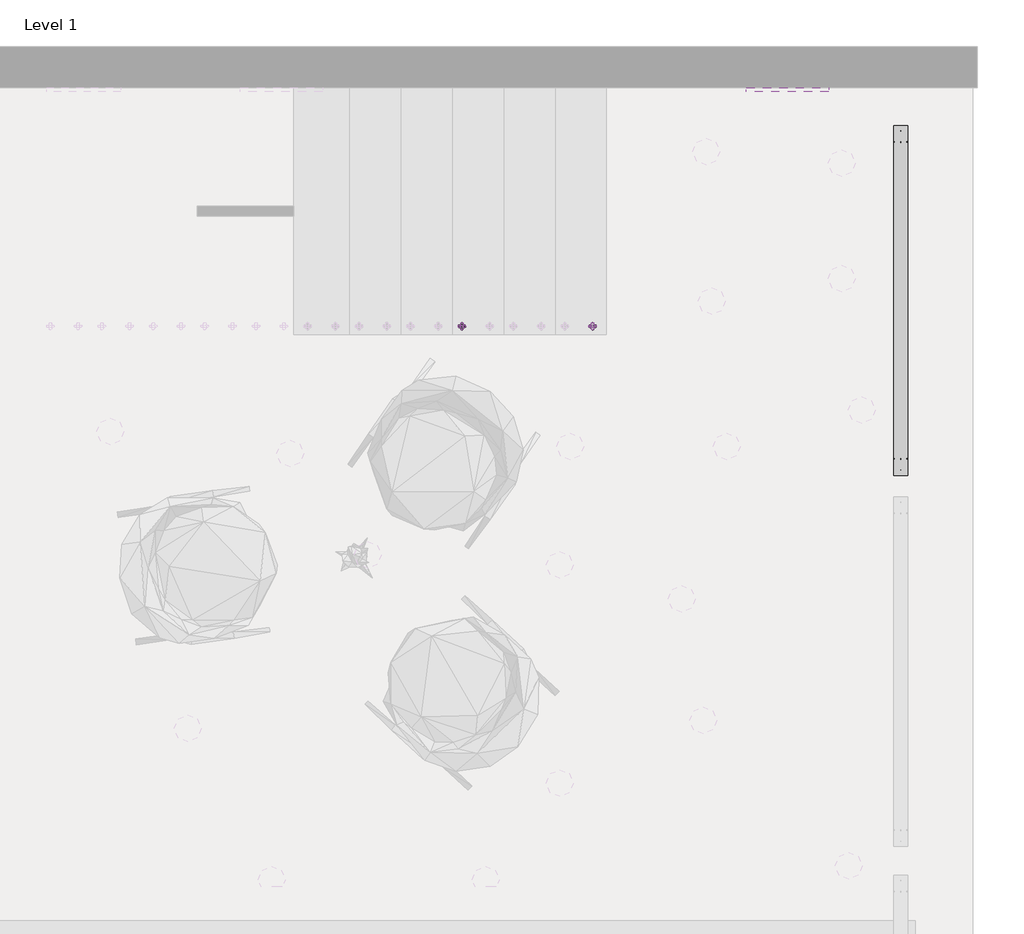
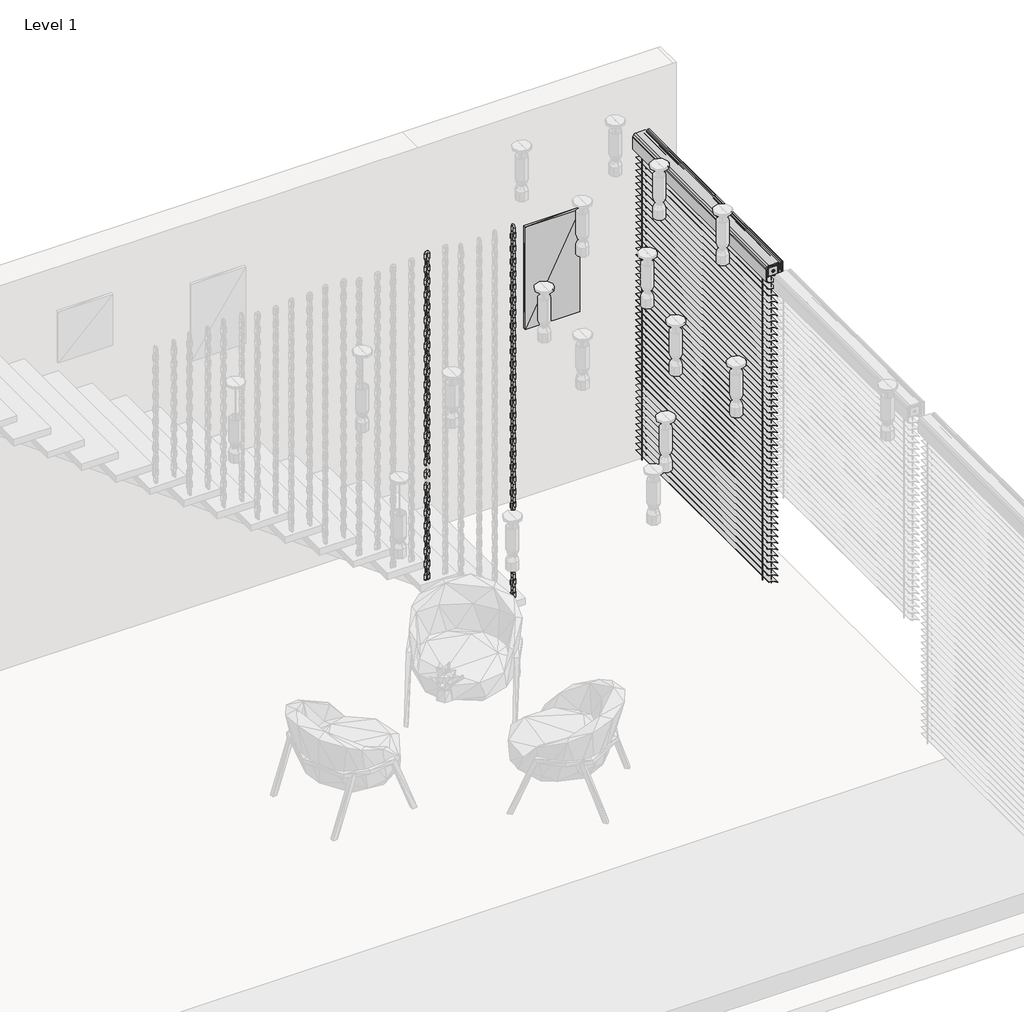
# One storey, part 12 of 12: 108 proxies, 1 geographic element.
"""IFC4 building model written with IfcOpenShell, lengths in millimetres."""

from ifc_helpers import new_model, si_unit, origin, place, context, project, spatial, transform, mapped, element, save
from components import generic_models_4dfa0e88, generic_models_0d125391, family1_family1_50133a43, family1_family1_d3af85bb, enscape_assetdefinition_wall_frame_03_enscape_afdf1664

model = new_model("IFC4")

# Units and contexts
model_context = context("Model", 3, world=origin())
ifc_project = project(units=[si_unit("LENGTHUNIT", "METRE", prefix="MILLI")], contexts=[model_context])

# Site, building, storey
site = spatial("IfcSite", under=ifc_project)
building = spatial("IfcBuilding", under=site)
storey = spatial("IfcBuildingStorey", under=building, Name="Level 1", Elevation=0.0)

# Proxies
placement = place(None, origin())
generic_models_shape = generic_models_4dfa0e88(model_context)
generic_models_2_shape = generic_models_0d125391(model_context)
element("IfcBuildingElementProxy", 1, Name="Windows-Blinds Schenker Stores Stores a lamelles Economy EC 70 : Windows-Blinds Schenker Stores Stores a lamelles Economy EC 70", ObjectType="Windows-Blinds Schenker Stores Stores a lamelles Economy EC 70 : Windows-Blinds Schenker Stores Stores a lamelles Economy EC 70", at=placement, inside=storey, context=model_context, shape_type="MappedRepresentation", body=[
    mapped(generic_models_shape, transform((14205.6769044, 1264.560891, 200.0), x_axis=(0.0, 1.0, 0.0), y_axis=(-1.0, 0.0, 0.0), z_axis=(0.0, 0.0, 1.0))),
    mapped(generic_models_2_shape, transform((14205.6769044, 1264.560891, 200.0), x_axis=(0.0, 1.0, 0.0), y_axis=(-1.0, 0.0, 0.0), z_axis=(0.0, 0.0, 1.0))),
])
family1_family1_shape = family1_family1_50133a43(model_context)
element("IfcBuildingElementProxy", 2, Name="Family1 : Family1", ObjectType="Family1 : Family1", at=placement, inside=storey, context=model_context, shape_type="MappedRepresentation", body=[
    mapped(family1_family1_shape, transform((15000.1232124, 1139.760891, -134.8140205), x_axis=(-0.03315618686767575, 0.0, 0.9994501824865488), y_axis=(-0.9994501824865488, 0.0, -0.03315618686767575), z_axis=(0.0, -1.0, 0.0))),
])
element("IfcBuildingElementProxy", 3, Name="Family1 : Family1", ObjectType="Family1 : Family1", at=placement, inside=storey, context=model_context, shape_type="MappedRepresentation", body=[
    mapped(family1_family1_shape, transform((15000.1232124, 1139.760891, -34.8140205), x_axis=(-0.03315618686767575, 0.0, 0.9994501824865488), y_axis=(-0.9994501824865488, 0.0, -0.03315618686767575), z_axis=(0.0, -1.0, 0.0))),
])
element("IfcBuildingElementProxy", 4, Name="Family1 : Family1", ObjectType="Family1 : Family1", at=placement, inside=storey, context=model_context, shape_type="MappedRepresentation", body=[
    mapped(family1_family1_shape, transform((15000.1232124, 1139.760891, 65.1859795), x_axis=(-0.03315618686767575, 0.0, 0.9994501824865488), y_axis=(-0.9994501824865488, 0.0, -0.03315618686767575), z_axis=(0.0, -1.0, 0.0))),
])
element("IfcBuildingElementProxy", 5, Name="Family1 : Family1", ObjectType="Family1 : Family1", at=placement, inside=storey, context=model_context, shape_type="MappedRepresentation", body=[
    mapped(family1_family1_shape, transform((15000.1232124, 1139.760891, 165.1859795), x_axis=(-0.03315618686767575, 0.0, 0.9994501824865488), y_axis=(-0.9994501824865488, 0.0, -0.03315618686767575), z_axis=(0.0, -1.0, 0.0))),
])
element("IfcBuildingElementProxy", 6, Name="Family1 : Family1", ObjectType="Family1 : Family1", at=placement, inside=storey, context=model_context, shape_type="MappedRepresentation", body=[
    mapped(family1_family1_shape, transform((15000.1232124, 1139.760891, 265.1859795), x_axis=(-0.03315618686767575, 0.0, 0.9994501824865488), y_axis=(-0.9994501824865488, 0.0, -0.03315618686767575), z_axis=(0.0, -1.0, 0.0))),
])
element("IfcBuildingElementProxy", 7, Name="Family1 : Family1", ObjectType="Family1 : Family1", at=placement, inside=storey, context=model_context, shape_type="MappedRepresentation", body=[
    mapped(family1_family1_shape, transform((15000.1232124, 1139.760891, 365.1859795), x_axis=(-0.03315618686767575, 0.0, 0.9994501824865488), y_axis=(-0.9994501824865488, 0.0, -0.03315618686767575), z_axis=(0.0, -1.0, 0.0))),
])
element("IfcBuildingElementProxy", 8, Name="Family1 : Family1", ObjectType="Family1 : Family1", at=placement, inside=storey, context=model_context, shape_type="MappedRepresentation", body=[
    mapped(family1_family1_shape, transform((15000.1232124, 1139.760891, 465.1859795), x_axis=(-0.03315618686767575, 0.0, 0.9994501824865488), y_axis=(-0.9994501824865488, 0.0, -0.03315618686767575), z_axis=(0.0, -1.0, 0.0))),
])
element("IfcBuildingElementProxy", 9, Name="Family1 : Family1", ObjectType="Family1 : Family1", at=placement, inside=storey, context=model_context, shape_type="MappedRepresentation", body=[
    mapped(family1_family1_shape, transform((15000.1232124, 1139.760891, 565.1859795), x_axis=(-0.03315618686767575, 0.0, 0.9994501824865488), y_axis=(-0.9994501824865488, 0.0, -0.03315618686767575), z_axis=(0.0, -1.0, 0.0))),
])
element("IfcBuildingElementProxy", 10, Name="Family1 : Family1", ObjectType="Family1 : Family1", at=placement, inside=storey, context=model_context, shape_type="MappedRepresentation", body=[
    mapped(family1_family1_shape, transform((15000.1232124, 1139.760891, 665.1859795), x_axis=(-0.03315618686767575, 0.0, 0.9994501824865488), y_axis=(-0.9994501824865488, 0.0, -0.03315618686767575), z_axis=(0.0, -1.0, 0.0))),
])
element("IfcBuildingElementProxy", 11, Name="Family1 : Family1", ObjectType="Family1 : Family1", at=placement, inside=storey, context=model_context, shape_type="MappedRepresentation", body=[
    mapped(family1_family1_shape, transform((15000.1232124, 1139.760891, 765.1859795), x_axis=(-0.03315618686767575, 0.0, 0.9994501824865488), y_axis=(-0.9994501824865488, 0.0, -0.03315618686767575), z_axis=(0.0, -1.0, 0.0))),
])
element("IfcBuildingElementProxy", 12, Name="Family1 : Family1", ObjectType="Family1 : Family1", at=placement, inside=storey, context=model_context, shape_type="MappedRepresentation", body=[
    mapped(family1_family1_shape, transform((15000.1232124, 1139.760891, -234.8140205), x_axis=(-0.03315618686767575, 0.0, 0.9994501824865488), y_axis=(-0.9994501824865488, 0.0, -0.03315618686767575), z_axis=(0.0, -1.0, 0.0))),
])
element("IfcBuildingElementProxy", 13, Name="Family1 : Family1", ObjectType="Family1 : Family1", at=placement, inside=storey, context=model_context, shape_type="MappedRepresentation", body=[
    mapped(family1_family1_shape, transform((15000.1232124, 1139.760891, -334.8140205), x_axis=(-0.03315618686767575, 0.0, 0.9994501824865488), y_axis=(-0.9994501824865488, 0.0, -0.03315618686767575), z_axis=(0.0, -1.0, 0.0))),
])
element("IfcBuildingElementProxy", 14, Name="Family1 : Family1", ObjectType="Family1 : Family1", at=placement, inside=storey, context=model_context, shape_type="MappedRepresentation", body=[
    mapped(family1_family1_shape, transform((15000.1232124, 1139.760891, -434.8140205), x_axis=(-0.03315618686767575, 0.0, 0.9994501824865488), y_axis=(-0.9994501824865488, 0.0, -0.03315618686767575), z_axis=(0.0, -1.0, 0.0))),
])
element("IfcBuildingElementProxy", 15, Name="Family1 : Family1", ObjectType="Family1 : Family1", at=placement, inside=storey, context=model_context, shape_type="MappedRepresentation", body=[
    mapped(family1_family1_shape, transform((15000.1232124, 1139.760891, -534.8140205), x_axis=(-0.03315618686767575, 0.0, 0.9994501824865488), y_axis=(-0.9994501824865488, 0.0, -0.03315618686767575), z_axis=(0.0, -1.0, 0.0))),
])
element("IfcBuildingElementProxy", 16, Name="Family1 : Family1", ObjectType="Family1 : Family1", at=placement, inside=storey, context=model_context, shape_type="MappedRepresentation", body=[
    mapped(family1_family1_shape, transform((15000.1232124, 1139.760891, -634.8140205), x_axis=(-0.03315618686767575, 0.0, 0.9994501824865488), y_axis=(-0.9994501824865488, 0.0, -0.03315618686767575), z_axis=(0.0, -1.0, 0.0))),
])
element("IfcBuildingElementProxy", 17, Name="Family1 : Family1", ObjectType="Family1 : Family1", at=placement, inside=storey, context=model_context, shape_type="MappedRepresentation", body=[
    mapped(family1_family1_shape, transform((15000.1232124, 1139.760891, -734.8140205), x_axis=(-0.03315618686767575, 0.0, 0.9994501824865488), y_axis=(-0.9994501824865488, 0.0, -0.03315618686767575), z_axis=(0.0, -1.0, 0.0))),
])
element("IfcBuildingElementProxy", 18, Name="Family1 : Family1", ObjectType="Family1 : Family1", at=placement, inside=storey, context=model_context, shape_type="MappedRepresentation", body=[
    mapped(family1_family1_shape, transform((15000.1232124, 1139.760891, -834.8140205), x_axis=(-0.03315618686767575, 0.0, 0.9994501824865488), y_axis=(-0.9994501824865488, 0.0, -0.03315618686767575), z_axis=(0.0, -1.0, 0.0))),
])
element("IfcBuildingElementProxy", 19, Name="Family1 : Family1", ObjectType="Family1 : Family1", at=placement, inside=storey, context=model_context, shape_type="MappedRepresentation", body=[
    mapped(family1_family1_shape, transform((15000.1232124, 1139.760891, -934.8140205), x_axis=(-0.03315618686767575, 0.0, 0.9994501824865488), y_axis=(-0.9994501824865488, 0.0, -0.03315618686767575), z_axis=(0.0, -1.0, 0.0))),
])
element("IfcBuildingElementProxy", 20, Name="Family1 : Family1", ObjectType="Family1 : Family1", at=placement, inside=storey, context=model_context, shape_type="MappedRepresentation", body=[
    mapped(family1_family1_shape, transform((15000.1232124, 1139.760891, -1034.8140205), x_axis=(-0.03315618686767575, 0.0, 0.9994501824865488), y_axis=(-0.9994501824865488, 0.0, -0.03315618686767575), z_axis=(0.0, -1.0, 0.0))),
])
element("IfcBuildingElementProxy", 21, Name="Family1 : Family1", ObjectType="Family1 : Family1", at=placement, inside=storey, context=model_context, shape_type="MappedRepresentation", body=[
    mapped(family1_family1_shape, transform((15000.1232124, 1139.760891, 865.1859795), x_axis=(-0.03315618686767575, 0.0, 0.9994501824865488), y_axis=(-0.9994501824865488, 0.0, -0.03315618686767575), z_axis=(0.0, -1.0, 0.0))),
])
element("IfcBuildingElementProxy", 22, Name="Family1 : Family1", ObjectType="Family1 : Family1", at=placement, inside=storey, context=model_context, shape_type="MappedRepresentation", body=[
    mapped(family1_family1_shape, transform((15000.1232124, 1139.760891, 965.1859795), x_axis=(-0.03315618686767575, 0.0, 0.9994501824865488), y_axis=(-0.9994501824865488, 0.0, -0.03315618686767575), z_axis=(0.0, -1.0, 0.0))),
])
element("IfcBuildingElementProxy", 23, Name="Family1 : Family1", ObjectType="Family1 : Family1", at=placement, inside=storey, context=model_context, shape_type="MappedRepresentation", body=[
    mapped(family1_family1_shape, transform((15000.1232124, 1139.760891, 1065.1859795), x_axis=(-0.033156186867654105, 0.0, 0.9994501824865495), y_axis=(-0.9994501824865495, 0.0, -0.033156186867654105), z_axis=(0.0, -1.0, 0.0))),
])
element("IfcBuildingElementProxy", 24, Name="Family1 : Family1", ObjectType="Family1 : Family1", at=placement, inside=storey, context=model_context, shape_type="MappedRepresentation", body=[
    mapped(family1_family1_shape, transform((15000.1232124, 1139.760891, 1165.1859795), x_axis=(-0.03315618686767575, 0.0, 0.9994501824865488), y_axis=(-0.9994501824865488, 0.0, -0.03315618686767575), z_axis=(0.0, -1.0, 0.0))),
])
element("IfcBuildingElementProxy", 25, Name="Family1 : Family1", ObjectType="Family1 : Family1", at=placement, inside=storey, context=model_context, shape_type="MappedRepresentation", body=[
    mapped(family1_family1_shape, transform((15000.1232124, 1139.760891, 1265.1859795), x_axis=(-0.03315618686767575, 0.0, 0.9994501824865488), y_axis=(-0.9994501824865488, 0.0, -0.03315618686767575), z_axis=(0.0, -1.0, 0.0))),
])
element("IfcBuildingElementProxy", 26, Name="Family1 : Family1", ObjectType="Family1 : Family1", at=placement, inside=storey, context=model_context, shape_type="MappedRepresentation", body=[
    mapped(family1_family1_shape, transform((15000.1232124, 1139.760891, 1365.1859795), x_axis=(-0.03315618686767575, 0.0, 0.9994501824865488), y_axis=(-0.9994501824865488, 0.0, -0.03315618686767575), z_axis=(0.0, -1.0, 0.0))),
])
element("IfcBuildingElementProxy", 27, Name="Family1 : Family1", ObjectType="Family1 : Family1", at=placement, inside=storey, context=model_context, shape_type="MappedRepresentation", body=[
    mapped(family1_family1_shape, transform((15000.1232124, 1139.760891, 1465.1859795), x_axis=(-0.03315618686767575, 0.0, 0.9994501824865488), y_axis=(-0.9994501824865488, 0.0, -0.03315618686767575), z_axis=(0.0, -1.0, 0.0))),
])
element("IfcBuildingElementProxy", 28, Name="Family1 : Family1", ObjectType="Family1 : Family1", at=placement, inside=storey, context=model_context, shape_type="MappedRepresentation", body=[
    mapped(family1_family1_shape, transform((15000.1232124, 1139.760891, 1565.1859795), x_axis=(-0.033156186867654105, 0.0, 0.9994501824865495), y_axis=(-0.9994501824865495, 0.0, -0.033156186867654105), z_axis=(0.0, -1.0, 0.0))),
])
element("IfcBuildingElementProxy", 29, Name="Family1 : Family1", ObjectType="Family1 : Family1", at=placement, inside=storey, context=model_context, shape_type="MappedRepresentation", body=[
    mapped(family1_family1_shape, transform((15000.1232124, 1139.760891, 1665.1859795), x_axis=(-0.03315618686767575, 0.0, 0.9994501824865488), y_axis=(-0.9994501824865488, 0.0, -0.03315618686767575), z_axis=(0.0, -1.0, 0.0))),
])
element("IfcBuildingElementProxy", 30, Name="Family1 : Family1", ObjectType="Family1 : Family1", at=placement, inside=storey, context=model_context, shape_type="MappedRepresentation", body=[
    mapped(family1_family1_shape, transform((15000.1232124, 1139.760891, 1765.1859795), x_axis=(-0.03315618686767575, 0.0, 0.9994501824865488), y_axis=(-0.9994501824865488, 0.0, -0.03315618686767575), z_axis=(0.0, -1.0, 0.0))),
])
element("IfcBuildingElementProxy", 31, Name="Family1 : Family1", ObjectType="Family1 : Family1", at=placement, inside=storey, context=model_context, shape_type="MappedRepresentation", body=[
    mapped(family1_family1_shape, transform((14365.1232124, 1139.760891, 229.8918618), x_axis=(-0.03315618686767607, 0.0, 0.9994501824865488), y_axis=(-0.9994501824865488, 0.0, -0.03315618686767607), z_axis=(0.0, -1.0, 0.0))),
])
element("IfcBuildingElementProxy", 32, Name="Family1 : Family1", ObjectType="Family1 : Family1", at=placement, inside=storey, context=model_context, shape_type="MappedRepresentation", body=[
    mapped(family1_family1_shape, transform((14365.1232124, 1139.760891, 329.8918618), x_axis=(-0.03315618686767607, 0.0, 0.9994501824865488), y_axis=(-0.9994501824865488, 0.0, -0.03315618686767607), z_axis=(0.0, -1.0, 0.0))),
])
element("IfcBuildingElementProxy", 33, Name="Family1 : Family1", ObjectType="Family1 : Family1", at=placement, inside=storey, context=model_context, shape_type="MappedRepresentation", body=[
    mapped(family1_family1_shape, transform((14365.1232124, 1139.760891, 429.8918618), x_axis=(-0.03315618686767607, 0.0, 0.9994501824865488), y_axis=(-0.9994501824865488, 0.0, -0.03315618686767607), z_axis=(0.0, -1.0, 0.0))),
])
element("IfcBuildingElementProxy", 34, Name="Family1 : Family1", ObjectType="Family1 : Family1", at=placement, inside=storey, context=model_context, shape_type="MappedRepresentation", body=[
    mapped(family1_family1_shape, transform((14365.1232124, 1139.760891, 529.8918618), x_axis=(-0.033156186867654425, 0.0, 0.9994501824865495), y_axis=(-0.9994501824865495, 0.0, -0.033156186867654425), z_axis=(0.0, -1.0, 0.0))),
])
element("IfcBuildingElementProxy", 35, Name="Family1 : Family1", ObjectType="Family1 : Family1", at=placement, inside=storey, context=model_context, shape_type="MappedRepresentation", body=[
    mapped(family1_family1_shape, transform((14365.1232124, 1139.760891, 629.8918618), x_axis=(-0.03315618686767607, 0.0, 0.9994501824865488), y_axis=(-0.9994501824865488, 0.0, -0.03315618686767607), z_axis=(0.0, -1.0, 0.0))),
])
element("IfcBuildingElementProxy", 36, Name="Family1 : Family1", ObjectType="Family1 : Family1", at=placement, inside=storey, context=model_context, shape_type="MappedRepresentation", body=[
    mapped(family1_family1_shape, transform((14365.1232124, 1139.760891, 729.8918618), x_axis=(-0.03315618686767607, 0.0, 0.9994501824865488), y_axis=(-0.9994501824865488, 0.0, -0.03315618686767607), z_axis=(0.0, -1.0, 0.0))),
])
element("IfcBuildingElementProxy", 37, Name="Family1 : Family1", ObjectType="Family1 : Family1", at=placement, inside=storey, context=model_context, shape_type="MappedRepresentation", body=[
    mapped(family1_family1_shape, transform((14365.1232124, 1139.760891, 829.8918618), x_axis=(-0.03315618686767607, 0.0, 0.9994501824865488), y_axis=(-0.9994501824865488, 0.0, -0.03315618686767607), z_axis=(0.0, -1.0, 0.0))),
])
element("IfcBuildingElementProxy", 38, Name="Family1 : Family1", ObjectType="Family1 : Family1", at=placement, inside=storey, context=model_context, shape_type="MappedRepresentation", body=[
    mapped(family1_family1_shape, transform((14365.1232124, 1139.760891, 929.8918618), x_axis=(-0.03315618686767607, 0.0, 0.9994501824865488), y_axis=(-0.9994501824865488, 0.0, -0.03315618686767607), z_axis=(0.0, -1.0, 0.0))),
])
element("IfcBuildingElementProxy", 39, Name="Family1 : Family1", ObjectType="Family1 : Family1", at=placement, inside=storey, context=model_context, shape_type="MappedRepresentation", body=[
    mapped(family1_family1_shape, transform((14365.1232124, 1139.760891, -70.1081382), x_axis=(-0.03315618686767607, 0.0, 0.9994501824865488), y_axis=(-0.9994501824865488, 0.0, -0.03315618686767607), z_axis=(0.0, -1.0, 0.0))),
])
element("IfcBuildingElementProxy", 40, Name="Family1 : Family1", ObjectType="Family1 : Family1", at=placement, inside=storey, context=model_context, shape_type="MappedRepresentation", body=[
    mapped(family1_family1_shape, transform((14365.1232124, 1139.760891, -170.1081382), x_axis=(-0.03315618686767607, 0.0, 0.9994501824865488), y_axis=(-0.9994501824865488, 0.0, -0.03315618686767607), z_axis=(0.0, -1.0, 0.0))),
])
element("IfcBuildingElementProxy", 41, Name="Family1 : Family1", ObjectType="Family1 : Family1", at=placement, inside=storey, context=model_context, shape_type="MappedRepresentation", body=[
    mapped(family1_family1_shape, transform((14365.1232124, 1139.760891, -270.1081382), x_axis=(-0.03315618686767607, 0.0, 0.9994501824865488), y_axis=(-0.9994501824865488, 0.0, -0.03315618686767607), z_axis=(0.0, -1.0, 0.0))),
])
element("IfcBuildingElementProxy", 42, Name="Family1 : Family1", ObjectType="Family1 : Family1", at=placement, inside=storey, context=model_context, shape_type="MappedRepresentation", body=[
    mapped(family1_family1_shape, transform((14365.1232124, 1139.760891, -370.1081382), x_axis=(-0.03315618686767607, 0.0, 0.9994501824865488), y_axis=(-0.9994501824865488, 0.0, -0.03315618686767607), z_axis=(0.0, -1.0, 0.0))),
])
element("IfcBuildingElementProxy", 43, Name="Family1 : Family1", ObjectType="Family1 : Family1", at=placement, inside=storey, context=model_context, shape_type="MappedRepresentation", body=[
    mapped(family1_family1_shape, transform((14365.1232124, 1139.760891, -470.1081382), x_axis=(-0.033156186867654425, 0.0, 0.9994501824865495), y_axis=(-0.9994501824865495, 0.0, -0.033156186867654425), z_axis=(0.0, -1.0, 0.0))),
])
element("IfcBuildingElementProxy", 44, Name="Family1 : Family1", ObjectType="Family1 : Family1", at=placement, inside=storey, context=model_context, shape_type="MappedRepresentation", body=[
    mapped(family1_family1_shape, transform((14365.1232124, 1139.760891, -570.1081382), x_axis=(-0.03315618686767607, 0.0, 0.9994501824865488), y_axis=(-0.9994501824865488, 0.0, -0.03315618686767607), z_axis=(0.0, -1.0, 0.0))),
])
element("IfcBuildingElementProxy", 45, Name="Family1 : Family1", ObjectType="Family1 : Family1", at=placement, inside=storey, context=model_context, shape_type="MappedRepresentation", body=[
    mapped(family1_family1_shape, transform((14365.1232124, 1139.760891, -670.1081382), x_axis=(-0.03315618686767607, 0.0, 0.9994501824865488), y_axis=(-0.9994501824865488, 0.0, -0.03315618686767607), z_axis=(0.0, -1.0, 0.0))),
])
element("IfcBuildingElementProxy", 46, Name="Family1 : Family1", ObjectType="Family1 : Family1", at=placement, inside=storey, context=model_context, shape_type="MappedRepresentation", body=[
    mapped(family1_family1_shape, transform((14365.1232124, 1139.760891, 1029.8918618), x_axis=(-0.033156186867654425, 0.0, 0.9994501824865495), y_axis=(-0.9994501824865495, 0.0, -0.033156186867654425), z_axis=(0.0, -1.0, 0.0))),
])
element("IfcBuildingElementProxy", 47, Name="Family1 : Family1", ObjectType="Family1 : Family1", at=placement, inside=storey, context=model_context, shape_type="MappedRepresentation", body=[
    mapped(family1_family1_shape, transform((14365.1232124, 1139.760891, 1129.8918618), x_axis=(-0.03315618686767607, 0.0, 0.9994501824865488), y_axis=(-0.9994501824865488, 0.0, -0.03315618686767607), z_axis=(0.0, -1.0, 0.0))),
])
element("IfcBuildingElementProxy", 48, Name="Family1 : Family1", ObjectType="Family1 : Family1", at=placement, inside=storey, context=model_context, shape_type="MappedRepresentation", body=[
    mapped(family1_family1_shape, transform((14365.1232124, 1139.760891, 1229.8918618), x_axis=(-0.03315618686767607, 0.0, 0.9994501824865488), y_axis=(-0.9994501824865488, 0.0, -0.03315618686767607), z_axis=(0.0, -1.0, 0.0))),
])
element("IfcBuildingElementProxy", 49, Name="Family1 : Family1", ObjectType="Family1 : Family1", at=placement, inside=storey, context=model_context, shape_type="MappedRepresentation", body=[
    mapped(family1_family1_shape, transform((14365.1232124, 1139.760891, 1329.8918618), x_axis=(-0.03315618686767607, 0.0, 0.9994501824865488), y_axis=(-0.9994501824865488, 0.0, -0.03315618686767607), z_axis=(0.0, -1.0, 0.0))),
])
element("IfcBuildingElementProxy", 50, Name="Family1 : Family1", ObjectType="Family1 : Family1", at=placement, inside=storey, context=model_context, shape_type="MappedRepresentation", body=[
    mapped(family1_family1_shape, transform((14365.1232124, 1139.760891, 1429.8918618), x_axis=(-0.03315618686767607, 0.0, 0.9994501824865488), y_axis=(-0.9994501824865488, 0.0, -0.03315618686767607), z_axis=(0.0, -1.0, 0.0))),
])
element("IfcBuildingElementProxy", 51, Name="Family1 : Family1", ObjectType="Family1 : Family1", at=placement, inside=storey, context=model_context, shape_type="MappedRepresentation", body=[
    mapped(family1_family1_shape, transform((14365.1232124, 1139.760891, 1529.8918618), x_axis=(-0.033156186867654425, 0.0, 0.9994501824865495), y_axis=(-0.9994501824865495, 0.0, -0.033156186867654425), z_axis=(0.0, -1.0, 0.0))),
])
element("IfcBuildingElementProxy", 52, Name="Family1 : Family1", ObjectType="Family1 : Family1", at=placement, inside=storey, context=model_context, shape_type="MappedRepresentation", body=[
    mapped(family1_family1_shape, transform((14365.1232124, 1139.760891, 1629.8918618), x_axis=(-0.03315618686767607, 0.0, 0.9994501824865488), y_axis=(-0.9994501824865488, 0.0, -0.03315618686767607), z_axis=(0.0, -1.0, 0.0))),
])
element("IfcBuildingElementProxy", 53, Name="Family1 : Family1", ObjectType="Family1 : Family1", at=placement, inside=storey, context=model_context, shape_type="MappedRepresentation", body=[
    mapped(family1_family1_shape, transform((14365.1232124, 1139.760891, 1729.8918618), x_axis=(-0.03315618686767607, 0.0, 0.9994501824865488), y_axis=(-0.9994501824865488, 0.0, -0.03315618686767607), z_axis=(0.0, -1.0, 0.0))),
])
family1_family1_2_shape = family1_family1_d3af85bb(model_context)
element("IfcBuildingElementProxy", 54, Name="Family1 : Family1", ObjectType="Family1 : Family1", at=placement, inside=storey, context=model_context, shape_type="MappedRepresentation", body=[
    mapped(family1_family1_2_shape, transform((15000.1232124, 1139.760891, -84.8140205), x_axis=(-0.03315618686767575, 0.0, 0.9994501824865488), y_axis=(-0.9994501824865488, 0.0, -0.03315618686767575), z_axis=(0.0, -1.0, 0.0))),
])
element("IfcBuildingElementProxy", 55, Name="Family1 : Family1", ObjectType="Family1 : Family1", at=placement, inside=storey, context=model_context, shape_type="MappedRepresentation", body=[
    mapped(family1_family1_2_shape, transform((15000.1232124, 1139.760891, 15.1859795), x_axis=(-0.03315618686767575, 0.0, 0.9994501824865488), y_axis=(-0.9994501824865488, 0.0, -0.03315618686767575), z_axis=(0.0, -1.0, 0.0))),
])
element("IfcBuildingElementProxy", 56, Name="Family1 : Family1", ObjectType="Family1 : Family1", at=placement, inside=storey, context=model_context, shape_type="MappedRepresentation", body=[
    mapped(family1_family1_2_shape, transform((15000.1232124, 1139.760891, 115.1859795), x_axis=(-0.033156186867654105, 0.0, 0.9994501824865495), y_axis=(-0.9994501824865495, 0.0, -0.033156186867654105), z_axis=(0.0, -1.0, 0.0))),
])
element("IfcBuildingElementProxy", 57, Name="Family1 : Family1", ObjectType="Family1 : Family1", at=placement, inside=storey, context=model_context, shape_type="MappedRepresentation", body=[
    mapped(family1_family1_2_shape, transform((15000.1232124, 1139.760891, 215.1859795), x_axis=(-0.03315618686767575, 0.0, 0.9994501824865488), y_axis=(-0.9994501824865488, 0.0, -0.03315618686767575), z_axis=(0.0, -1.0, 0.0))),
])
element("IfcBuildingElementProxy", 58, Name="Family1 : Family1", ObjectType="Family1 : Family1", at=placement, inside=storey, context=model_context, shape_type="MappedRepresentation", body=[
    mapped(family1_family1_2_shape, transform((15000.1232124, 1139.760891, 315.1859795), x_axis=(-0.03315618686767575, 0.0, 0.9994501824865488), y_axis=(-0.9994501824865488, 0.0, -0.03315618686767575), z_axis=(0.0, -1.0, 0.0))),
])
element("IfcBuildingElementProxy", 59, Name="Family1 : Family1", ObjectType="Family1 : Family1", at=placement, inside=storey, context=model_context, shape_type="MappedRepresentation", body=[
    mapped(family1_family1_2_shape, transform((15000.1232124, 1139.760891, 415.1859795), x_axis=(-0.03315618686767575, 0.0, 0.9994501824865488), y_axis=(-0.9994501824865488, 0.0, -0.03315618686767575), z_axis=(0.0, -1.0, 0.0))),
])
element("IfcBuildingElementProxy", 60, Name="Family1 : Family1", ObjectType="Family1 : Family1", at=placement, inside=storey, context=model_context, shape_type="MappedRepresentation", body=[
    mapped(family1_family1_2_shape, transform((15000.1232124, 1139.760891, 515.1859795), x_axis=(-0.03315618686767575, 0.0, 0.9994501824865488), y_axis=(-0.9994501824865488, 0.0, -0.03315618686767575), z_axis=(0.0, -1.0, 0.0))),
])
element("IfcBuildingElementProxy", 61, Name="Family1 : Family1", ObjectType="Family1 : Family1", at=placement, inside=storey, context=model_context, shape_type="MappedRepresentation", body=[
    mapped(family1_family1_2_shape, transform((15000.1232124, 1139.760891, 615.1859795), x_axis=(-0.033156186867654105, 0.0, 0.9994501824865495), y_axis=(-0.9994501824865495, 0.0, -0.033156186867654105), z_axis=(0.0, -1.0, 0.0))),
])
element("IfcBuildingElementProxy", 62, Name="Family1 : Family1", ObjectType="Family1 : Family1", at=placement, inside=storey, context=model_context, shape_type="MappedRepresentation", body=[
    mapped(family1_family1_2_shape, transform((15000.1232124, 1139.760891, 715.1859795), x_axis=(-0.03315618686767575, 0.0, 0.9994501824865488), y_axis=(-0.9994501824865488, 0.0, -0.03315618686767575), z_axis=(0.0, -1.0, 0.0))),
])
element("IfcBuildingElementProxy", 63, Name="Family1 : Family1", ObjectType="Family1 : Family1", at=placement, inside=storey, context=model_context, shape_type="MappedRepresentation", body=[
    mapped(family1_family1_2_shape, transform((15000.1232124, 1139.760891, 815.1859795), x_axis=(-0.03315618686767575, 0.0, 0.9994501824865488), y_axis=(-0.9994501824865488, 0.0, -0.03315618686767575), z_axis=(0.0, -1.0, 0.0))),
])
element("IfcBuildingElementProxy", 64, Name="Family1 : Family1", ObjectType="Family1 : Family1", at=placement, inside=storey, context=model_context, shape_type="MappedRepresentation", body=[
    mapped(family1_family1_2_shape, transform((15000.1232124, 1139.760891, -184.8140205), x_axis=(-0.03315618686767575, 0.0, 0.9994501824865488), y_axis=(-0.9994501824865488, 0.0, -0.03315618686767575), z_axis=(0.0, -1.0, 0.0))),
])
element("IfcBuildingElementProxy", 65, Name="Family1 : Family1", ObjectType="Family1 : Family1", at=placement, inside=storey, context=model_context, shape_type="MappedRepresentation", body=[
    mapped(family1_family1_2_shape, transform((15000.1232124, 1139.760891, -284.8140205), x_axis=(-0.03315618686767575, 0.0, 0.9994501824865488), y_axis=(-0.9994501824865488, 0.0, -0.03315618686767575), z_axis=(0.0, -1.0, 0.0))),
])
element("IfcBuildingElementProxy", 66, Name="Family1 : Family1", ObjectType="Family1 : Family1", at=placement, inside=storey, context=model_context, shape_type="MappedRepresentation", body=[
    mapped(family1_family1_2_shape, transform((15000.1232124, 1139.760891, -384.8140205), x_axis=(-0.033156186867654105, 0.0, 0.9994501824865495), y_axis=(-0.9994501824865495, 0.0, -0.033156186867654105), z_axis=(0.0, -1.0, 0.0))),
])
element("IfcBuildingElementProxy", 67, Name="Family1 : Family1", ObjectType="Family1 : Family1", at=placement, inside=storey, context=model_context, shape_type="MappedRepresentation", body=[
    mapped(family1_family1_2_shape, transform((15000.1232124, 1139.760891, -484.8140205), x_axis=(-0.03315618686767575, 0.0, 0.9994501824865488), y_axis=(-0.9994501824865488, 0.0, -0.03315618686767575), z_axis=(0.0, -1.0, 0.0))),
])
element("IfcBuildingElementProxy", 68, Name="Family1 : Family1", ObjectType="Family1 : Family1", at=placement, inside=storey, context=model_context, shape_type="MappedRepresentation", body=[
    mapped(family1_family1_2_shape, transform((15000.1232124, 1139.760891, -584.8140205), x_axis=(-0.03315618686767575, 0.0, 0.9994501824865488), y_axis=(-0.9994501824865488, 0.0, -0.03315618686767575), z_axis=(0.0, -1.0, 0.0))),
])
element("IfcBuildingElementProxy", 69, Name="Family1 : Family1", ObjectType="Family1 : Family1", at=placement, inside=storey, context=model_context, shape_type="MappedRepresentation", body=[
    mapped(family1_family1_2_shape, transform((15000.1232124, 1139.760891, -684.8140205), x_axis=(-0.03315618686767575, 0.0, 0.9994501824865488), y_axis=(-0.9994501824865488, 0.0, -0.03315618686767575), z_axis=(0.0, -1.0, 0.0))),
])
element("IfcBuildingElementProxy", 70, Name="Family1 : Family1", ObjectType="Family1 : Family1", at=placement, inside=storey, context=model_context, shape_type="MappedRepresentation", body=[
    mapped(family1_family1_2_shape, transform((15000.1232124, 1139.760891, -784.8140205), x_axis=(-0.03315618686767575, 0.0, 0.9994501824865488), y_axis=(-0.9994501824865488, 0.0, -0.03315618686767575), z_axis=(0.0, -1.0, 0.0))),
])
element("IfcBuildingElementProxy", 71, Name="Family1 : Family1", ObjectType="Family1 : Family1", at=placement, inside=storey, context=model_context, shape_type="MappedRepresentation", body=[
    mapped(family1_family1_2_shape, transform((15000.1232124, 1139.760891, -884.8140205), x_axis=(-0.033156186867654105, 0.0, 0.9994501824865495), y_axis=(-0.9994501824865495, 0.0, -0.033156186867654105), z_axis=(0.0, -1.0, 0.0))),
])
element("IfcBuildingElementProxy", 72, Name="Family1 : Family1", ObjectType="Family1 : Family1", at=placement, inside=storey, context=model_context, shape_type="MappedRepresentation", body=[
    mapped(family1_family1_2_shape, transform((15000.1232124, 1139.760891, -984.8140205), x_axis=(-0.03315618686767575, 0.0, 0.9994501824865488), y_axis=(-0.9994501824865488, 0.0, -0.03315618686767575), z_axis=(0.0, -1.0, 0.0))),
])
element("IfcBuildingElementProxy", 73, Name="Family1 : Family1", ObjectType="Family1 : Family1", at=placement, inside=storey, context=model_context, shape_type="MappedRepresentation", body=[
    mapped(family1_family1_2_shape, transform((15000.1232124, 1139.760891, -1084.8140205), x_axis=(-0.03315618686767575, 0.0, 0.9994501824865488), y_axis=(-0.9994501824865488, 0.0, -0.03315618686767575), z_axis=(0.0, -1.0, 0.0))),
])
element("IfcBuildingElementProxy", 74, Name="Family1 : Family1", ObjectType="Family1 : Family1", at=placement, inside=storey, context=model_context, shape_type="MappedRepresentation", body=[
    mapped(family1_family1_2_shape, transform((15000.1232124, 1139.760891, 915.1859795), x_axis=(-0.03315618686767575, 0.0, 0.9994501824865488), y_axis=(-0.9994501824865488, 0.0, -0.03315618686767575), z_axis=(0.0, -1.0, 0.0))),
])
element("IfcBuildingElementProxy", 75, Name="Family1 : Family1", ObjectType="Family1 : Family1", at=placement, inside=storey, context=model_context, shape_type="MappedRepresentation", body=[
    mapped(family1_family1_2_shape, transform((15000.1232124, 1139.760891, 1015.1859795), x_axis=(-0.03315618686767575, 0.0, 0.9994501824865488), y_axis=(-0.9994501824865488, 0.0, -0.03315618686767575), z_axis=(0.0, -1.0, 0.0))),
])
element("IfcBuildingElementProxy", 76, Name="Family1 : Family1", ObjectType="Family1 : Family1", at=placement, inside=storey, context=model_context, shape_type="MappedRepresentation", body=[
    mapped(family1_family1_2_shape, transform((15000.1232124, 1139.760891, 1115.1859795), x_axis=(-0.03315618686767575, 0.0, 0.9994501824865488), y_axis=(-0.9994501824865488, 0.0, -0.03315618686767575), z_axis=(0.0, -1.0, 0.0))),
])
element("IfcBuildingElementProxy", 77, Name="Family1 : Family1", ObjectType="Family1 : Family1", at=placement, inside=storey, context=model_context, shape_type="MappedRepresentation", body=[
    mapped(family1_family1_2_shape, transform((15000.1232124, 1139.760891, 1215.1859795), x_axis=(-0.03315618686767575, 0.0, 0.9994501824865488), y_axis=(-0.9994501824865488, 0.0, -0.03315618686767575), z_axis=(0.0, -1.0, 0.0))),
])
element("IfcBuildingElementProxy", 78, Name="Family1 : Family1", ObjectType="Family1 : Family1", at=placement, inside=storey, context=model_context, shape_type="MappedRepresentation", body=[
    mapped(family1_family1_2_shape, transform((15000.1232124, 1139.760891, 1315.1859795), x_axis=(-0.03315618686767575, 0.0, 0.9994501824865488), y_axis=(-0.9994501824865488, 0.0, -0.03315618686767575), z_axis=(0.0, -1.0, 0.0))),
])
element("IfcBuildingElementProxy", 79, Name="Family1 : Family1", ObjectType="Family1 : Family1", at=placement, inside=storey, context=model_context, shape_type="MappedRepresentation", body=[
    mapped(family1_family1_2_shape, transform((15000.1232124, 1139.760891, 1415.1859795), x_axis=(-0.03315618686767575, 0.0, 0.9994501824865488), y_axis=(-0.9994501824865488, 0.0, -0.03315618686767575), z_axis=(0.0, -1.0, 0.0))),
])
element("IfcBuildingElementProxy", 80, Name="Family1 : Family1", ObjectType="Family1 : Family1", at=placement, inside=storey, context=model_context, shape_type="MappedRepresentation", body=[
    mapped(family1_family1_2_shape, transform((15000.1232124, 1139.760891, 1515.1859795), x_axis=(-0.03315618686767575, 0.0, 0.9994501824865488), y_axis=(-0.9994501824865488, 0.0, -0.03315618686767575), z_axis=(0.0, -1.0, 0.0))),
])
element("IfcBuildingElementProxy", 81, Name="Family1 : Family1", ObjectType="Family1 : Family1", at=placement, inside=storey, context=model_context, shape_type="MappedRepresentation", body=[
    mapped(family1_family1_2_shape, transform((15000.1232124, 1139.760891, 1615.1859795), x_axis=(-0.03315618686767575, 0.0, 0.9994501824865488), y_axis=(-0.9994501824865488, 0.0, -0.03315618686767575), z_axis=(0.0, -1.0, 0.0))),
])
element("IfcBuildingElementProxy", 82, Name="Family1 : Family1", ObjectType="Family1 : Family1", at=placement, inside=storey, context=model_context, shape_type="MappedRepresentation", body=[
    mapped(family1_family1_2_shape, transform((15000.1232124, 1139.760891, 1715.1859795), x_axis=(-0.03315618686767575, 0.0, 0.9994501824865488), y_axis=(-0.9994501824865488, 0.0, -0.03315618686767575), z_axis=(0.0, -1.0, 0.0))),
])
element("IfcBuildingElementProxy", 83, Name="Family1 : Family1", ObjectType="Family1 : Family1", at=placement, inside=storey, context=model_context, shape_type="MappedRepresentation", body=[
    mapped(family1_family1_2_shape, transform((14365.1232124, 1139.760891, 79.8918618), x_axis=(-0.03315618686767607, 0.0, 0.9994501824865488), y_axis=(-0.9994501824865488, 0.0, -0.03315618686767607), z_axis=(0.0, -1.0, 0.0))),
])
element("IfcBuildingElementProxy", 84, Name="Family1 : Family1", ObjectType="Family1 : Family1", at=placement, inside=storey, context=model_context, shape_type="MappedRepresentation", body=[
    mapped(family1_family1_2_shape, transform((14365.1232124, 1139.760891, 179.8918618), x_axis=(-0.03315618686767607, 0.0, 0.9994501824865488), y_axis=(-0.9994501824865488, 0.0, -0.03315618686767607), z_axis=(0.0, -1.0, 0.0))),
])
element("IfcBuildingElementProxy", 85, Name="Family1 : Family1", ObjectType="Family1 : Family1", at=placement, inside=storey, context=model_context, shape_type="MappedRepresentation", body=[
    mapped(family1_family1_2_shape, transform((14365.1232124, 1139.760891, 279.8918618), x_axis=(-0.03315618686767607, 0.0, 0.9994501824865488), y_axis=(-0.9994501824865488, 0.0, -0.03315618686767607), z_axis=(0.0, -1.0, 0.0))),
])
element("IfcBuildingElementProxy", 86, Name="Family1 : Family1", ObjectType="Family1 : Family1", at=placement, inside=storey, context=model_context, shape_type="MappedRepresentation", body=[
    mapped(family1_family1_2_shape, transform((14365.1232124, 1139.760891, 379.8918618), x_axis=(-0.03315618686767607, 0.0, 0.9994501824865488), y_axis=(-0.9994501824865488, 0.0, -0.03315618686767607), z_axis=(0.0, -1.0, 0.0))),
])
element("IfcBuildingElementProxy", 87, Name="Family1 : Family1", ObjectType="Family1 : Family1", at=placement, inside=storey, context=model_context, shape_type="MappedRepresentation", body=[
    mapped(family1_family1_2_shape, transform((14365.1232124, 1139.760891, 479.8918618), x_axis=(-0.03315618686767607, 0.0, 0.9994501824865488), y_axis=(-0.9994501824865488, 0.0, -0.03315618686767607), z_axis=(0.0, -1.0, 0.0))),
])
element("IfcBuildingElementProxy", 88, Name="Family1 : Family1", ObjectType="Family1 : Family1", at=placement, inside=storey, context=model_context, shape_type="MappedRepresentation", body=[
    mapped(family1_family1_2_shape, transform((14365.1232124, 1139.760891, 579.8918618), x_axis=(-0.03315618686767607, 0.0, 0.9994501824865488), y_axis=(-0.9994501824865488, 0.0, -0.03315618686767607), z_axis=(0.0, -1.0, 0.0))),
])
element("IfcBuildingElementProxy", 89, Name="Family1 : Family1", ObjectType="Family1 : Family1", at=placement, inside=storey, context=model_context, shape_type="MappedRepresentation", body=[
    mapped(family1_family1_2_shape, transform((14365.1232124, 1139.760891, 679.8918618), x_axis=(-0.03315618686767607, 0.0, 0.9994501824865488), y_axis=(-0.9994501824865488, 0.0, -0.03315618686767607), z_axis=(0.0, -1.0, 0.0))),
])
element("IfcBuildingElementProxy", 90, Name="Family1 : Family1", ObjectType="Family1 : Family1", at=placement, inside=storey, context=model_context, shape_type="MappedRepresentation", body=[
    mapped(family1_family1_2_shape, transform((14365.1232124, 1139.760891, 779.8918618), x_axis=(-0.03315618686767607, 0.0, 0.9994501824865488), y_axis=(-0.9994501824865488, 0.0, -0.03315618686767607), z_axis=(0.0, -1.0, 0.0))),
])
element("IfcBuildingElementProxy", 91, Name="Family1 : Family1", ObjectType="Family1 : Family1", at=placement, inside=storey, context=model_context, shape_type="MappedRepresentation", body=[
    mapped(family1_family1_2_shape, transform((14365.1232124, 1139.760891, 879.8918618), x_axis=(-0.03315618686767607, 0.0, 0.9994501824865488), y_axis=(-0.9994501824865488, 0.0, -0.03315618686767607), z_axis=(0.0, -1.0, 0.0))),
])
element("IfcBuildingElementProxy", 92, Name="Family1 : Family1", ObjectType="Family1 : Family1", at=placement, inside=storey, context=model_context, shape_type="MappedRepresentation", body=[
    mapped(family1_family1_2_shape, transform((14365.1232124, 1139.760891, 979.8918618), x_axis=(-0.03315618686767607, 0.0, 0.9994501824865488), y_axis=(-0.9994501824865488, 0.0, -0.03315618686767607), z_axis=(0.0, -1.0, 0.0))),
])
element("IfcBuildingElementProxy", 93, Name="Family1 : Family1", ObjectType="Family1 : Family1", at=placement, inside=storey, context=model_context, shape_type="MappedRepresentation", body=[
    mapped(family1_family1_2_shape, transform((14365.1232124, 1139.760891, -20.1081382), x_axis=(-0.03315618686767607, 0.0, 0.9994501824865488), y_axis=(-0.9994501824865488, 0.0, -0.03315618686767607), z_axis=(0.0, -1.0, 0.0))),
])
element("IfcBuildingElementProxy", 94, Name="Family1 : Family1", ObjectType="Family1 : Family1", at=placement, inside=storey, context=model_context, shape_type="MappedRepresentation", body=[
    mapped(family1_family1_2_shape, transform((14365.1232124, 1139.760891, -120.1081382), x_axis=(-0.03315618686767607, 0.0, 0.9994501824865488), y_axis=(-0.9994501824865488, 0.0, -0.03315618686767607), z_axis=(0.0, -1.0, 0.0))),
])
element("IfcBuildingElementProxy", 95, Name="Family1 : Family1", ObjectType="Family1 : Family1", at=placement, inside=storey, context=model_context, shape_type="MappedRepresentation", body=[
    mapped(family1_family1_2_shape, transform((14365.1232124, 1139.760891, -220.1081382), x_axis=(-0.03315618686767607, 0.0, 0.9994501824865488), y_axis=(-0.9994501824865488, 0.0, -0.03315618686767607), z_axis=(0.0, -1.0, 0.0))),
])
element("IfcBuildingElementProxy", 96, Name="Family1 : Family1", ObjectType="Family1 : Family1", at=placement, inside=storey, context=model_context, shape_type="MappedRepresentation", body=[
    mapped(family1_family1_2_shape, transform((14365.1232124, 1139.760891, -320.1081382), x_axis=(-0.03315618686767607, 0.0, 0.9994501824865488), y_axis=(-0.9994501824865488, 0.0, -0.03315618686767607), z_axis=(0.0, -1.0, 0.0))),
])
element("IfcBuildingElementProxy", 97, Name="Family1 : Family1", ObjectType="Family1 : Family1", at=placement, inside=storey, context=model_context, shape_type="MappedRepresentation", body=[
    mapped(family1_family1_2_shape, transform((14365.1232124, 1139.760891, -420.1081382), x_axis=(-0.03315618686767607, 0.0, 0.9994501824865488), y_axis=(-0.9994501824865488, 0.0, -0.03315618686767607), z_axis=(0.0, -1.0, 0.0))),
])
element("IfcBuildingElementProxy", 98, Name="Family1 : Family1", ObjectType="Family1 : Family1", at=placement, inside=storey, context=model_context, shape_type="MappedRepresentation", body=[
    mapped(family1_family1_2_shape, transform((14365.1232124, 1139.760891, -520.1081382), x_axis=(-0.03315618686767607, 0.0, 0.9994501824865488), y_axis=(-0.9994501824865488, 0.0, -0.03315618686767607), z_axis=(0.0, -1.0, 0.0))),
])
element("IfcBuildingElementProxy", 99, Name="Family1 : Family1", ObjectType="Family1 : Family1", at=placement, inside=storey, context=model_context, shape_type="MappedRepresentation", body=[
    mapped(family1_family1_2_shape, transform((14365.1232124, 1139.760891, -620.1081382), x_axis=(-0.03315618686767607, 0.0, 0.9994501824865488), y_axis=(-0.9994501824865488, 0.0, -0.03315618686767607), z_axis=(0.0, -1.0, 0.0))),
])
element("IfcBuildingElementProxy", 100, Name="Family1 : Family1", ObjectType="Family1 : Family1", at=placement, inside=storey, context=model_context, shape_type="MappedRepresentation", body=[
    mapped(family1_family1_2_shape, transform((14365.1232124, 1139.760891, -720.1081382), x_axis=(-0.03315618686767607, 0.0, 0.9994501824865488), y_axis=(-0.9994501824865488, 0.0, -0.03315618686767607), z_axis=(0.0, -1.0, 0.0))),
])
element("IfcBuildingElementProxy", 101, Name="Family1 : Family1", ObjectType="Family1 : Family1", at=placement, inside=storey, context=model_context, shape_type="MappedRepresentation", body=[
    mapped(family1_family1_2_shape, transform((14365.1232124, 1139.760891, 1079.8918618), x_axis=(-0.03315618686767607, 0.0, 0.9994501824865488), y_axis=(-0.9994501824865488, 0.0, -0.03315618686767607), z_axis=(0.0, -1.0, 0.0))),
])
element("IfcBuildingElementProxy", 102, Name="Family1 : Family1", ObjectType="Family1 : Family1", at=placement, inside=storey, context=model_context, shape_type="MappedRepresentation", body=[
    mapped(family1_family1_2_shape, transform((14365.1232124, 1139.760891, 1179.8918618), x_axis=(-0.03315618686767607, 0.0, 0.9994501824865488), y_axis=(-0.9994501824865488, 0.0, -0.03315618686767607), z_axis=(0.0, -1.0, 0.0))),
])
element("IfcBuildingElementProxy", 103, Name="Family1 : Family1", ObjectType="Family1 : Family1", at=placement, inside=storey, context=model_context, shape_type="MappedRepresentation", body=[
    mapped(family1_family1_2_shape, transform((14365.1232124, 1139.760891, 1279.8918618), x_axis=(-0.03315618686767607, 0.0, 0.9994501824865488), y_axis=(-0.9994501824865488, 0.0, -0.03315618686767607), z_axis=(0.0, -1.0, 0.0))),
])
element("IfcBuildingElementProxy", 104, Name="Family1 : Family1", ObjectType="Family1 : Family1", at=placement, inside=storey, context=model_context, shape_type="MappedRepresentation", body=[
    mapped(family1_family1_2_shape, transform((14365.1232124, 1139.760891, 1379.8918618), x_axis=(-0.03315618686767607, 0.0, 0.9994501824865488), y_axis=(-0.9994501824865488, 0.0, -0.03315618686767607), z_axis=(0.0, -1.0, 0.0))),
])
element("IfcBuildingElementProxy", 105, Name="Family1 : Family1", ObjectType="Family1 : Family1", at=placement, inside=storey, context=model_context, shape_type="MappedRepresentation", body=[
    mapped(family1_family1_2_shape, transform((14365.1232124, 1139.760891, 1479.8918618), x_axis=(-0.03315618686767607, 0.0, 0.9994501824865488), y_axis=(-0.9994501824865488, 0.0, -0.03315618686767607), z_axis=(0.0, -1.0, 0.0))),
])
element("IfcBuildingElementProxy", 106, Name="Family1 : Family1", ObjectType="Family1 : Family1", at=placement, inside=storey, context=model_context, shape_type="MappedRepresentation", body=[
    mapped(family1_family1_2_shape, transform((14365.1232124, 1139.760891, 1579.8918618), x_axis=(-0.03315618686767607, 0.0, 0.9994501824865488), y_axis=(-0.9994501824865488, 0.0, -0.03315618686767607), z_axis=(0.0, -1.0, 0.0))),
])
element("IfcBuildingElementProxy", 107, Name="Family1 : Family1", ObjectType="Family1 : Family1", at=placement, inside=storey, context=model_context, shape_type="MappedRepresentation", body=[
    mapped(family1_family1_2_shape, transform((14365.1232124, 1139.760891, 1679.8918618), x_axis=(-0.03315618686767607, 0.0, 0.9994501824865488), y_axis=(-0.9994501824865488, 0.0, -0.03315618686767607), z_axis=(0.0, -1.0, 0.0))),
])
element("IfcBuildingElementProxy", 108, Name="Family1 : Family1", ObjectType="Family1 : Family1", at=placement, inside=storey, context=model_context, shape_type="MappedRepresentation", body=[
    mapped(family1_family1_2_shape, transform((14365.1232124, 1139.760891, 1779.8918618), x_axis=(-0.03315618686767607, 0.0, 0.9994501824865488), y_axis=(-0.9994501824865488, 0.0, -0.03315618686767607), z_axis=(0.0, -1.0, 0.0))),
])

# Geographic element
enscape_assetdefinition_wall_frame_03_enscape_shape = enscape_assetdefinition_wall_frame_03_enscape_afdf1664(model_context)
element("IfcGeographicElement", 109, ObjectType="Enscape AssetDefinition - Wall Frame 03 : Enscape AssetDefinition - Wall Frame 03", at=placement, inside=storey, context=model_context, shape_type="MappedRepresentation", body=[
    mapped(enscape_assetdefinition_wall_frame_03_enscape_shape, transform((13710.6769044, 2299.760891, 1320.0), x_axis=(1.0, 0.0, 0.0), y_axis=(0.0, 1.0, 0.0), z_axis=(0.0, 0.0, 1.0))),
])

save(model, "model.ifc")
